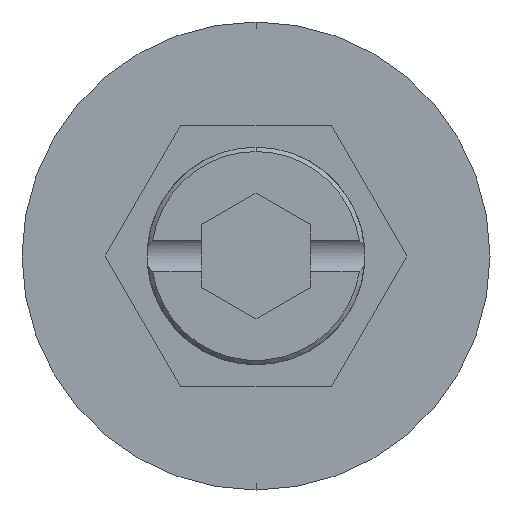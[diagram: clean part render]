
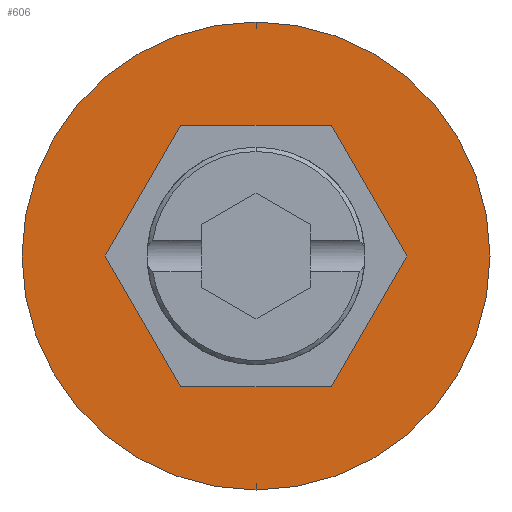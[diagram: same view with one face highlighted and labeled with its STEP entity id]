
A CAD part, front view. The second image highlights one B-rep face of the part: STEP entity #606.
In plain terms, the highlighted planar face has unit normal (0, -1, 0).
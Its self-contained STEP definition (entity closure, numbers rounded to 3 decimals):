
#40 = EDGE_LOOP ( 'NONE', ( #1645, #1047 ) ) ;
#55 = CARTESIAN_POINT ( 'NONE',  ( -6.928, 0., 0. ) ) ;
#59 = DIRECTION ( 'NONE',  ( -0.5, 0., -0.866 ) ) ;
#63 = EDGE_CURVE ( 'NONE', #810, #1995, #1567, .T. ) ;
#161 = DIRECTION ( 'NONE',  ( 0., 0., -1. ) ) ;
#168 = EDGE_CURVE ( 'NONE', #628, #810, #1466, .T. ) ;
#178 = DIRECTION ( 'NONE',  ( 0., -1., 0. ) ) ;
#203 = VECTOR ( 'NONE', #59, 1000. ) ;
#215 = CARTESIAN_POINT ( 'NONE',  ( 0., 0., 0. ) ) ;
#225 = CARTESIAN_POINT ( 'NONE',  ( 6.928, 0., 0. ) ) ;
#229 = EDGE_CURVE ( 'NONE', #1851, #757, #1388, .T. ) ;
#253 = EDGE_CURVE ( 'NONE', #1995, #2232, #1373, .T. ) ;
#254 = LINE ( 'NONE', #1277, #257 ) ;
#257 = VECTOR ( 'NONE', #2040, 1000. ) ;
#261 = PLANE ( 'NONE',  #1917 ) ;
#289 = LINE ( 'NONE', #1874, #203 ) ;
#333 = EDGE_CURVE ( 'NONE', #757, #1851, #1303, .T. ) ;
#346 = DIRECTION ( 'NONE',  ( 0., -1., 0. ) ) ;
#451 = LINE ( 'NONE', #1512, #492 ) ;
#492 = VECTOR ( 'NONE', #1812, 1000. ) ;
#606 = ADVANCED_FACE ( 'NONE', ( #950, #956 ), #261, .T. ) ;
#628 = VERTEX_POINT ( 'NONE', #1336 ) ;
#643 = ORIENTED_EDGE ( 'NONE', *, *, #1651, .F. ) ;
#723 = CARTESIAN_POINT ( 'NONE',  ( -3.464, 0., -6. ) ) ;
#734 = AXIS2_PLACEMENT_3D ( 'NONE', #1202, #346, #161 ) ;
#757 = VERTEX_POINT ( 'NONE', #2188 ) ;
#810 = VERTEX_POINT ( 'NONE', #2156 ) ;
#860 = VERTEX_POINT ( 'NONE', #55 ) ;
#891 = ORIENTED_EDGE ( 'NONE', *, *, #1249, .F. ) ;
#898 = VERTEX_POINT ( 'NONE', #1999 ) ;
#950 = FACE_BOUND ( 'NONE', #1835, .T. ) ;
#956 = FACE_OUTER_BOUND ( 'NONE', #40, .T. ) ;
#987 = CARTESIAN_POINT ( 'NONE',  ( 3.464, 0., 6. ) ) ;
#1047 = ORIENTED_EDGE ( 'NONE', *, *, #229, .T. ) ;
#1057 = ORIENTED_EDGE ( 'NONE', *, *, #1725, .F. ) ;
#1171 = CARTESIAN_POINT ( 'NONE',  ( 0., 0., 0. ) ) ;
#1202 = CARTESIAN_POINT ( 'NONE',  ( 0., 0., 0. ) ) ;
#1249 = EDGE_CURVE ( 'NONE', #860, #628, #451, .T. ) ;
#1277 = CARTESIAN_POINT ( 'NONE',  ( 3.464, 0., 6. ) ) ;
#1283 = AXIS2_PLACEMENT_3D ( 'NONE', #1171, #178, #1775 ) ;
#1303 = CIRCLE ( 'NONE', #1283, 10.75 ) ;
#1307 = DIRECTION ( 'NONE',  ( 0.5, 0., 0.866 ) ) ;
#1336 = CARTESIAN_POINT ( 'NONE',  ( -3.464, 0., -6. ) ) ;
#1349 = VECTOR ( 'NONE', #1833, 1000. ) ;
#1355 = ORIENTED_EDGE ( 'NONE', *, *, #168, .F. ) ;
#1373 = LINE ( 'NONE', #2046, #1349 ) ;
#1388 = CIRCLE ( 'NONE', #734, 10.75 ) ;
#1464 = VECTOR ( 'NONE', #1722, 1000. ) ;
#1466 = LINE ( 'NONE', #723, #1464 ) ;
#1512 = CARTESIAN_POINT ( 'NONE',  ( -6.928, 0., 0. ) ) ;
#1553 = VECTOR ( 'NONE', #1307, 1000. ) ;
#1560 = CARTESIAN_POINT ( 'NONE',  ( 3.464, 0., -6. ) ) ;
#1567 = LINE ( 'NONE', #1560, #1553 ) ;
#1636 = ORIENTED_EDGE ( 'NONE', *, *, #63, .F. ) ;
#1645 = ORIENTED_EDGE ( 'NONE', *, *, #333, .T. ) ;
#1651 = EDGE_CURVE ( 'NONE', #2232, #898, #254, .T. ) ;
#1657 = ORIENTED_EDGE ( 'NONE', *, *, #253, .F. ) ;
#1722 = DIRECTION ( 'NONE',  ( 1., 0., 0. ) ) ;
#1725 = EDGE_CURVE ( 'NONE', #898, #860, #289, .T. ) ;
#1775 = DIRECTION ( 'NONE',  ( 0., 0., -1. ) ) ;
#1812 = DIRECTION ( 'NONE',  ( 0.5, 0., -0.866 ) ) ;
#1828 = CARTESIAN_POINT ( 'NONE',  ( 0., 0., 10.75 ) ) ;
#1833 = DIRECTION ( 'NONE',  ( -0.5, 0., 0.866 ) ) ;
#1835 = EDGE_LOOP ( 'NONE', ( #1355, #891, #1057, #643, #1657, #1636 ) ) ;
#1851 = VERTEX_POINT ( 'NONE', #1828 ) ;
#1874 = CARTESIAN_POINT ( 'NONE',  ( -3.464, 0., 6. ) ) ;
#1917 = AXIS2_PLACEMENT_3D ( 'NONE', #215, #2127, #1977 ) ;
#1977 = DIRECTION ( 'NONE',  ( 0., 0., -1. ) ) ;
#1995 = VERTEX_POINT ( 'NONE', #225 ) ;
#1999 = CARTESIAN_POINT ( 'NONE',  ( -3.464, 0., 6. ) ) ;
#2040 = DIRECTION ( 'NONE',  ( -1., 0., 0. ) ) ;
#2046 = CARTESIAN_POINT ( 'NONE',  ( 6.928, 0., 0. ) ) ;
#2127 = DIRECTION ( 'NONE',  ( 0., -1., 0. ) ) ;
#2156 = CARTESIAN_POINT ( 'NONE',  ( 3.464, 0., -6. ) ) ;
#2188 = CARTESIAN_POINT ( 'NONE',  ( 0., 0., -10.75 ) ) ;
#2232 = VERTEX_POINT ( 'NONE', #987 ) ;
